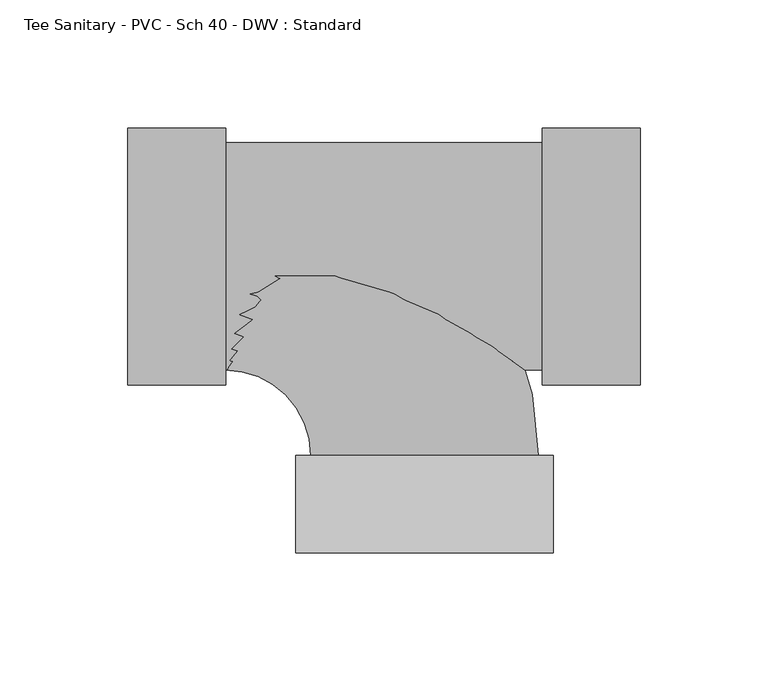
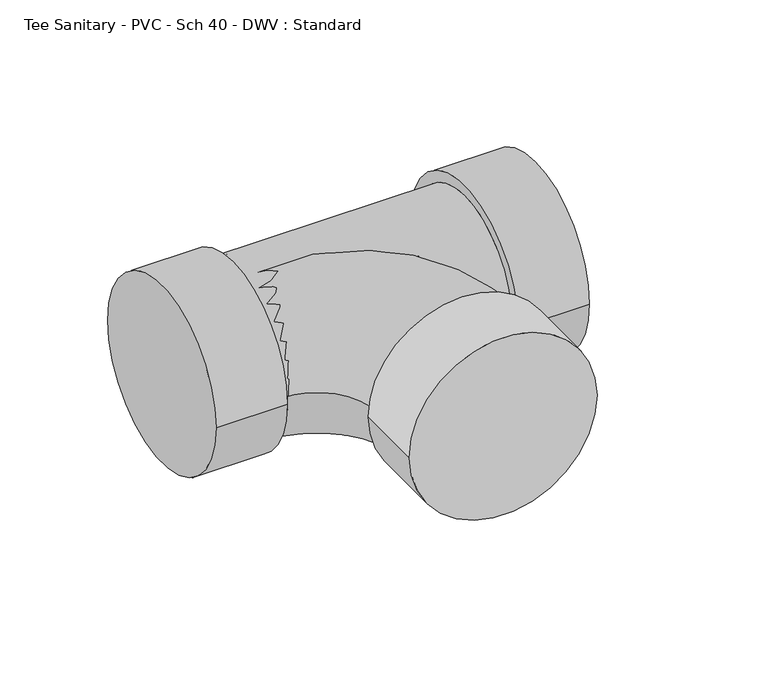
"""IFC4 building model written with IfcOpenShell, lengths in millimetres: pipe fitting geometry, Tee Sanitary - PVC - Sch 40 - DWV : Standard."""

from ifc_helpers import new_model, si_unit, point, frame, origin, place, context, project, spatial, circle_curve, ellipse_curve, trimmed, source, transform, mapped, element, save
from ifc_brep_helpers import plane_surface, cylinder_surface, revolved_surface, advanced_brep


def tee_sanitary_pvc_sch_40_dwv_standard_5c52869b(model_context):
    return source(origin(), model_context, "Body", "AdvancedBrep", [
        advanced_brep(
        [(-77.8002, -44.45, 0.0), (46.0248, -44.45, 0.0), (46.0248, 44.45, 0.0), (-77.8002, 44.45, 0.0), (46.0248, -50.2666, 0.0), (46.0248, 50.2666, 0.0), (84.1248, -50.2666, 0.0), (84.1248, 50.2666, 0.0), (-115.9002, -50.2666, 0.0), (-115.9002, 50.2666, 0.0), (-77.8002, -50.2666, 0.0), (-77.8002, 50.2666, 0.0)],
        [
            (0, 1),
            (1, 2, circle_curve(frame((46.0248, 0.0, 0.0), z_axis=(-1.0, 0.0, 0.0), x_axis=(0.0, 1.0, 0.0)), 44.45)),
            (2, 3),
            (3, 0, circle_curve(frame((-77.8002, 0.0, 0.0), z_axis=(1.0, 0.0, 0.0), x_axis=(0.0, 1.0, 0.0)), 44.45)),
            (0, 3, circle_curve(frame((-77.8002, 0.0, 0.0), z_axis=(1.0, 0.0, 0.0), x_axis=(0.0, 1.0, 0.0)), 44.45)),
            (2, 1, circle_curve(frame((46.0248, 0.0, 0.0), z_axis=(-1.0, 0.0, 0.0), x_axis=(0.0, 1.0, 0.0)), 44.45)),
            (4, 5, circle_curve(frame((46.0248, 0.0, 0.0), z_axis=(-1.0, 0.0, 0.0), x_axis=(0.0, 1.0, 0.0)), 50.2666)),
            (5, 4, circle_curve(frame((46.0248, 0.0, 0.0), z_axis=(-1.0, 0.0, 0.0), x_axis=(0.0, 1.0, 0.0)), 50.2666)),
            (6, 7, circle_curve(frame((84.1248, 0.0, 0.0), z_axis=(1.0, 0.0, 0.0), x_axis=(0.0, 1.0, 0.0)), 50.2666)),
            (7, 6, circle_curve(frame((84.1248, 0.0, 0.0), z_axis=(1.0, 0.0, 0.0), x_axis=(0.0, 1.0, 0.0)), 50.2666)),
            (4, 6),
            (7, 5),
            (8, 9, circle_curve(frame((-115.9002, 0.0, 0.0), z_axis=(-1.0, 0.0, 0.0), x_axis=(0.0, 1.0, 0.0)), 50.2666)),
            (9, 8, circle_curve(frame((-115.9002, 0.0, 0.0), z_axis=(-1.0, 0.0, 0.0), x_axis=(0.0, 1.0, 0.0)), 50.2666)),
            (10, 11, circle_curve(frame((-77.8002, 0.0, 0.0), z_axis=(1.0, 0.0, 0.0), x_axis=(0.0, 1.0, 0.0)), 50.2666)),
            (11, 10, circle_curve(frame((-77.8002, 0.0, 0.0), z_axis=(1.0, 0.0, 0.0), x_axis=(0.0, 1.0, 0.0)), 50.2666)),
            (8, 10),
            (11, 9),
        ],
        [
            cylinder_surface(frame((-77.8002, 0.0, 0.0), z_axis=(-1.0, 0.0, 0.0), x_axis=(0.0, 1.0, 0.0)), 44.45),
            plane_surface(frame((46.0248, 0.0, 0.0), z_axis=(-1.0, 0.0, 0.0), x_axis=(0.0, 0.0, 1.0))),
            plane_surface(frame((84.1248, 0.0, 0.0), z_axis=(1.0, 0.0, 0.0), x_axis=(0.0, 0.0, 1.0))),
            cylinder_surface(frame((46.0248, 0.0, 0.0), z_axis=(-1.0, 0.0, 0.0), x_axis=(0.0, 1.0, 0.0)), 50.2666),
            plane_surface(frame((-115.9002, 0.0, 0.0), z_axis=(-1.0, 0.0, 0.0), x_axis=(0.0, 0.0, 1.0))),
            plane_surface(frame((-77.8002, 0.0, 0.0), z_axis=(1.0, 0.0, 0.0), x_axis=(0.0, 0.0, 1.0))),
            cylinder_surface(frame((-115.9002, 0.0, 0.0), z_axis=(-1.0, 0.0, 0.0), x_axis=(0.0, 1.0, 0.0)), 50.2666),
        ],
        [
            (0, [[1, 2, 3, 4]]),
            (0, [[-1, 5, -3, 6]]),
            (1, [[7, 8], [-2, -6]]),
            (2, [[9, 10]]),
            (3, [[-7, 11, -10, 12]]),
            (3, [[-8, -12, -9, -11]]),
            (4, [[13, 14]]),
            (5, [[15, 16], [-4, -5]]),
            (6, [[-13, 17, -16, 18]]),
            (6, [[-14, -18, -15, -17]]),
        ],
    ),
        advanced_brep(
        [(-77.8002, -44.45, 0.0), (-77.8002, 44.45, 0.0), (-44.45, -77.8002, 0.0), (44.45, -77.8002, 0.0), (50.2666, -115.9002, 0.0), (-50.2666, -115.9002, 0.0), (50.2666, -77.8002, 0.0), (-50.2666, -77.8002, 0.0)],
        [
            (0, 1, circle_curve(frame((-77.8002, 0.0, 0.0), z_axis=(-1.0, 0.0, 0.0), x_axis=(0.0, 1.0, 0.0)), 44.45)),
            (1, 0, circle_curve(frame((-77.8002, 0.0, 0.0), z_axis=(-1.0, 0.0, 0.0), x_axis=(0.0, 1.0, 0.0)), 44.45)),
            (0, 2, circle_curve(frame((-77.8002, -77.8002, 0.0), z_axis=(0.0, 0.0, -1.0), x_axis=(0.0, 1.0, 0.0)), 33.3502)),
            (2, 3, circle_curve(frame((0.0, -77.8002, 0.0), z_axis=(-1.0287938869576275e-12, 1.0, 0.0), x_axis=(1.0, 1.0287938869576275e-12, 0.0)), 44.45)),
            (3, 1, circle_curve(frame((-77.8002, -77.8002, 0.0), z_axis=(0.0, 0.0, 1.0), x_axis=(0.0, 1.0, 0.0)), 122.2502)),
            (3, 2, circle_curve(frame((0.0, -77.8002, 0.0), z_axis=(-1.0287938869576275e-12, 1.0, 0.0), x_axis=(1.0, 1.0287938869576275e-12, 0.0)), 44.45)),
            (4, 5, circle_curve(frame((0.0, -115.9002, 0.0), z_axis=(0.0, -1.0, 0.0), x_axis=(-1.0, 0.0, 0.0)), 50.2666)),
            (5, 4, circle_curve(frame((0.0, -115.9002, 0.0), z_axis=(0.0, -1.0, 0.0), x_axis=(-1.0, 0.0, 0.0)), 50.2666)),
            (6, 7, circle_curve(frame((0.0, -77.8002, 0.0), z_axis=(0.0, 1.0, 0.0), x_axis=(-1.0, 0.0, 0.0)), 50.2666)),
            (7, 6, circle_curve(frame((0.0, -77.8002, 0.0), z_axis=(0.0, 1.0, 0.0), x_axis=(-1.0, 0.0, 0.0)), 50.2666)),
            (4, 6),
            (7, 5),
        ],
        [
            plane_surface(frame((-77.8002, 0.0, 0.0), z_axis=(-1.0, 0.0, 0.0), x_axis=(0.0, 0.0, 1.0))),
            revolved_surface(trimmed(ellipse_curve(frame((-77.8002, 0.0, 0.0), z_axis=(-1.0, 0.0, 0.0), x_axis=(0.0, 1.0, 0.0)), 44.45, 44.45), [point((-77.8002, -44.45, 0.0))], [point((-77.8002, 44.45, 0.0))], True, "CARTESIAN"), (-77.8002, -77.8002, 0.0), (0.0, 0.0, -1.0)),
            revolved_surface(trimmed(ellipse_curve(frame((-77.8002, 0.0, 0.0), z_axis=(-1.0, 0.0, 0.0), x_axis=(0.0, 1.0, 0.0)), 44.45, 44.45), [point((-77.8002, 44.45, 0.0))], [point((-77.8002, -44.45, 0.0))], True, "CARTESIAN"), (-77.8002, -77.8002, 0.0), (0.0, 0.0, -1.0)),
            plane_surface(frame((0.0, -115.9002, 0.0), z_axis=(0.0, -1.0, 0.0), x_axis=(0.0, 0.0, 1.0))),
            plane_surface(frame((0.0, -77.8002, 0.0), z_axis=(0.0, 1.0, 0.0), x_axis=(0.0, 0.0, 1.0))),
            cylinder_surface(frame((0.0, -115.9002, 0.0), z_axis=(0.0, -1.0, 0.0), x_axis=(-1.0, 0.0, 0.0)), 50.2666),
        ],
        [
            (0, [[1, 2]]),
            (1, [[-1, 3, 4, 5]]),
            (2, [[-2, -5, 6, -3]]),
            (3, [[7, 8]]),
            (4, [[9, 10], [-4, -6]]),
            (5, [[-7, 11, -10, 12]]),
            (5, [[-8, -12, -9, -11]]),
        ],
    ),
    ])


if __name__ == "__main__":
    model = new_model("IFC4")
    model_context = context("Model", 3, world=origin())
    ifc_project = project(units=[si_unit("LENGTHUNIT", "METRE", prefix="MILLI")], contexts=[model_context])
    site = spatial("IfcSite", under=ifc_project)
    building = spatial("IfcBuilding", under=site)
    placement = place(None, origin())
    tee_sanitary_pvc_sch_40_dwv_standard_shape = tee_sanitary_pvc_sch_40_dwv_standard_5c52869b(model_context)
    element("IfcPipeFitting", 1, ObjectType="Tee Sanitary - PVC - Sch 40 - DWV : Standard", at=placement, inside=building, context=model_context, shape_type="MappedRepresentation", body=[
        mapped(tee_sanitary_pvc_sch_40_dwv_standard_shape, transform((0.0, 0.0, 0.0), x_axis=(1.0, 0.0, 0.0), y_axis=(0.0, 1.0, 0.0), z_axis=(0.0, 0.0, 1.0))),
    ])
    save(model, "model.ifc")
